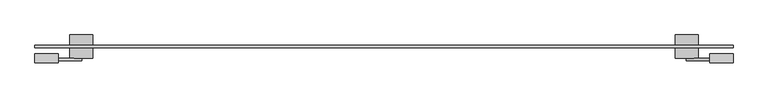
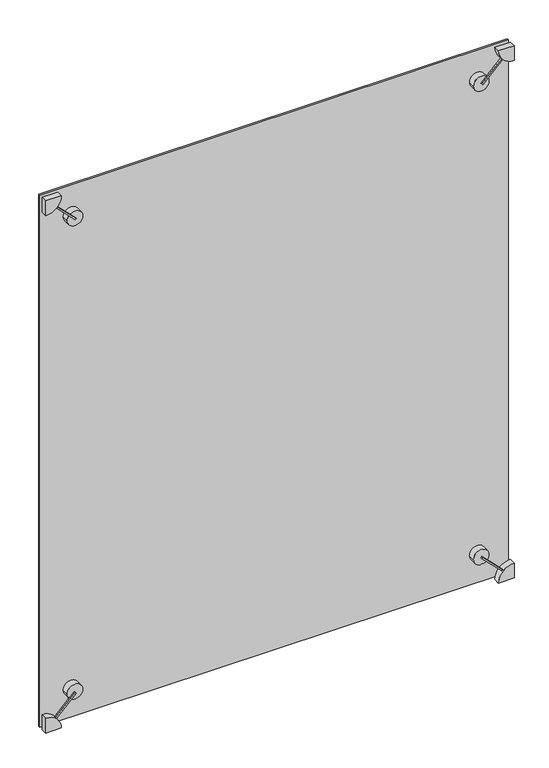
"""IFC4 building model written with IfcOpenShell, lengths in millimetres: plate geometry, 点爪式幕墙嵌板 : 点爪式幕墙嵌板."""

import ifcopenshell
import ifcopenshell.guid

model = None  # the IFC model being written
_history = None  # IfcOwnerHistory: only IFC2X3 demands one
_inside = {}  # id of a spatial element -> (the spatial element, [elements in it])
_under = {}  # id of a project, library or spatial element -> (it, [spatial elements below it])
_declared = {}  # id of a project -> (the project, [libraries it declares])
_typed = {}  # id of a type object -> (the type object, [elements of that type])
_made_of = {}  # id of a material, layer set ... -> (it, [elements and type objects made of it])


def new_model(schema):
    """Start an empty IFC model of exactly this schema.

    Asked for "IFC4X3", IfcOpenShell would pick the latest addendum, in which some entities
    have other attributes; the version numbers below select the first issue.
    IFC2X3 requires an IfcOwnerHistory on every rooted entity: one is made here for all.
    """
    global model, _history
    if schema == "IFC4X3":
        model = ifcopenshell.file(schema_version=(4, 3, 0, 0))
    else:
        model = ifcopenshell.file(schema=schema)
    _inside.clear()
    _under.clear()
    _declared.clear()
    _typed.clear()
    _made_of.clear()
    _history = None
    if model.schema == "IFC2X3":
        org = make("IfcOrganization", Name="unknown")
        user = make(
            "IfcPersonAndOrganization",
            ThePerson=make("IfcPerson", FamilyName="unknown"),
            TheOrganization=org,
        )
        app = make(
            "IfcApplication",
            ApplicationDeveloper=org,
            Version="unknown",
            ApplicationFullName="unknown",
            ApplicationIdentifier="unknown",
        )
        _history = make(
            "IfcOwnerHistory",
            OwningUser=user,
            OwningApplication=app,
            ChangeAction="ADDED",
            CreationDate=0,
        )
    return model


def make(cls, **values):
    """One entity of the class cls with the attributes given. An attribute that is None is left unset."""
    return model.create_entity(
        cls, **{name: value for name, value in values.items() if value is not None}
    )


def rooted(cls, **values):
    """An entity with a GlobalId (a new one), such as an element, a storey or a relation."""
    return make(cls, GlobalId=ifcopenshell.guid.new(), OwnerHistory=_history, **values)


def si_unit(unit_type, name, prefix=None):
    """IfcSIUnit, for example si_unit("LENGTHUNIT", "METRE", prefix="MILLI")."""
    return make("IfcSIUnit", UnitType=unit_type, Prefix=prefix, Name=name)


def assignment(units):
    """IfcUnitAssignment: the units of a project."""
    return None if units is None else make("IfcUnitAssignment", Units=units)


def point(xyz):
    """IfcCartesianPoint."""
    return None if xyz is None else make("IfcCartesianPoint", Coordinates=xyz)


def direction(xyz):
    """IfcDirection."""
    return None if xyz is None else make("IfcDirection", DirectionRatios=xyz)


def frame(location, z_axis=None, x_axis=None):
    """IfcAxis2Placement3D, a coordinate frame: its origin and axes. An axis left out is left unset."""
    return make(
        "IfcAxis2Placement3D",
        Location=point(location),
        Axis=direction(z_axis),
        RefDirection=direction(x_axis),
    )


def frame_2d(location, x_axis=None):
    """IfcAxis2Placement2D, a coordinate frame in the plane: its origin and x axis."""
    return make(
        "IfcAxis2Placement2D", Location=point(location), RefDirection=direction(x_axis)
    )


def origin():
    """The frame at (0, 0, 0) with its axes left unset."""
    return frame((0.0, 0.0, 0.0))


def origin_with_axes():
    """The frame at (0, 0, 0) with the z axis (0, 0, 1) and the x axis (1, 0, 0) written out."""
    return frame((0.0, 0.0, 0.0), z_axis=(0.0, 0.0, 1.0), x_axis=(1.0, 0.0, 0.0))


def place(relative_to, where):
    """IfcLocalPlacement: puts the frame where relative to a parent placement (None: the world)."""
    return make(
        "IfcLocalPlacement", PlacementRelTo=relative_to, RelativePlacement=where
    )


def context(
    kind, dimensions, precision=None, world=None, true_north=None, identifier=None
):
    """IfcGeometricRepresentationContext, for example the 3D "Model" context."""
    return make(
        "IfcGeometricRepresentationContext",
        ContextIdentifier=identifier,
        ContextType=kind,
        CoordinateSpaceDimension=dimensions,
        Precision=precision,
        WorldCoordinateSystem=world,
        TrueNorth=true_north,
    )


def project(units=None, contexts=None):
    """IfcProject with its units and contexts."""
    return rooted(
        "IfcProject",
        Name="project",
        RepresentationContexts=contexts,
        UnitsInContext=assignment(units),
    )


def spatial(cls, under=None, at=None, **own):
    """A site, building, storey or space (cls), placed at a placement, below another one or the project."""
    s = rooted(cls, ObjectPlacement=at, **own)
    if under is not None:
        _under.setdefault(under.id(), (under, []))[1].append(s)
    return s


def polyline(points):
    """IfcPolyline through the points."""
    return make("IfcPolyline", Points=[point(p) for p in points])


def circle_curve(where, radius):
    """IfcCircle in the frame where."""
    return make("IfcCircle", Position=where, Radius=radius)


def trimmed(basis, trim1, trim2, sense, master):
    """IfcTrimmedCurve: the piece of a basis curve between two trims."""
    return make(
        "IfcTrimmedCurve",
        BasisCurve=basis,
        Trim1=trim1,
        Trim2=trim2,
        SenseAgreement=sense,
        MasterRepresentation=master,
    )


def segment(curve, same_sense, transition):
    """IfcCompositeCurveSegment."""
    return make(
        "IfcCompositeCurveSegment",
        Transition=transition,
        SameSense=same_sense,
        ParentCurve=curve,
    )


def composite_curve(segments, self_intersect=None):
    """IfcCompositeCurve: segments joined end to end."""
    return make("IfcCompositeCurve", Segments=segments, SelfIntersect=self_intersect)


def outline(outer, holes=None, kind="AREA"):
    """IfcArbitraryClosedProfileDef: a profile drawn as a closed curve; with holes, ...WithVoids."""
    if holes is None:
        return make("IfcArbitraryClosedProfileDef", ProfileType=kind, OuterCurve=outer)
    return make(
        "IfcArbitraryProfileDefWithVoids",
        ProfileType=kind,
        OuterCurve=outer,
        InnerCurves=holes,
    )


def extrude(swept, where, along, depth):
    """IfcExtrudedAreaSolid: the profile swept, set in the frame where, extruded along a direction by depth."""
    return make(
        "IfcExtrudedAreaSolid",
        SweptArea=swept,
        Position=where,
        ExtrudedDirection=direction(along),
        Depth=depth,
    )


def shape(context_of_items, identifier, shape_type, items):
    """IfcShapeRepresentation: the items that make up one representation, for example the "Body"."""
    return make(
        "IfcShapeRepresentation",
        ContextOfItems=context_of_items,
        RepresentationIdentifier=identifier,
        RepresentationType=shape_type,
        Items=items,
    )


def source(mapping_origin, context_of_items, identifier, shape_type, items):
    """IfcRepresentationMap: a shape defined once, which mapped items show again and again."""
    return make(
        "IfcRepresentationMap",
        MappingOrigin=mapping_origin,
        MappedRepresentation=shape(context_of_items, identifier, shape_type, items),
    )


def transform(
    local_origin,
    x_axis=None,
    y_axis=None,
    z_axis=None,
    scale=None,
    scale2=None,
    scale3=None,
    uniform=True,
):
    """IfcCartesianTransformationOperator3D, or its non-uniform kind. x_axis, y_axis, z_axis: its Axis1, 2, 3."""
    if uniform:
        return make(
            "IfcCartesianTransformationOperator3D",
            Axis1=direction(x_axis),
            Axis2=direction(y_axis),
            LocalOrigin=point(local_origin),
            Scale=scale,
            Axis3=direction(z_axis),
        )
    return make(
        "IfcCartesianTransformationOperator3DnonUniform",
        Axis1=direction(x_axis),
        Axis2=direction(y_axis),
        LocalOrigin=point(local_origin),
        Scale=scale,
        Axis3=direction(z_axis),
        Scale2=scale2,
        Scale3=scale3,
    )


def mapped(mapping_source, mapping_target):
    """IfcMappedItem: shows the shape of a source again, moved by a transform."""
    return make(
        "IfcMappedItem", MappingSource=mapping_source, MappingTarget=mapping_target
    )


def made_of(thing, what):
    """Note that an element or type object is made of a material, layer set ...; save() writes the relation."""
    if what is not None:
        _made_of.setdefault(what.id(), (what, []))[1].append(thing)
    return thing


def element(
    cls,
    number,
    at=None,
    inside=None,
    cuts=None,
    type_object=None,
    material=None,
    context=None,
    identifier="Body",
    shape_type=None,
    held_by="IfcProductDefinitionShape",
    body=None,
    shapes=None,
    **own,
):
    """One element of the class cls, such as IfcWall. Its Tag is "e" and its number.

    at: its placement. inside: the storey or other place that contains it. cuts: it is an
    opening in that element (IfcRelVoidsElement). A single representation is given by context,
    identifier, shape_type and body (its items); several are given by shapes. held_by: the class
    of the entity that holds the representations. save() writes the other relations.
    """
    e = rooted(cls, Tag="e%d" % number, ObjectPlacement=at, **own)
    if body is not None:
        shapes = [shape(context, identifier, shape_type, body)]
    if shapes is not None:
        e.Representation = make(held_by, Representations=shapes)
    if inside is not None:
        _inside.setdefault(inside.id(), (inside, []))[1].append(e)
    if cuts is not None:
        rooted(
            "IfcRelVoidsElement", RelatingBuildingElement=cuts, RelatedOpeningElement=e
        )
    if type_object is not None:
        _typed.setdefault(type_object.id(), (type_object, []))[1].append(e)
    return made_of(e, material)


def aggregate(whole, parts):
    """IfcRelAggregates: a whole, such as a stair, and the parts it consists of."""
    return rooted("IfcRelAggregates", RelatingObject=whole, RelatedObjects=parts)


def save(model, path):
    """Write the relations noted so far, then the file.

    IfcRelAggregates (storeys below a building ...), IfcRelContainedInSpatialStructure (elements
    in a storey), IfcRelDefinesByType, IfcRelAssociatesMaterial and IfcRelDeclares: one each for
    every whole, place, type object, material and project.
    """
    for whole, parts in _under.values():
        aggregate(whole, parts)
    for where, things in _inside.values():
        rooted(
            "IfcRelContainedInSpatialStructure",
            RelatedElements=things,
            RelatingStructure=where,
        )
    for kind, things in _typed.values():
        rooted("IfcRelDefinesByType", RelatedObjects=things, RelatingType=kind)
    for what, things in _made_of.values():
        rooted("IfcRelAssociatesMaterial", RelatedObjects=things, RelatingMaterial=what)
    for by, libraries in _declared.values():
        rooted("IfcRelDeclares", RelatingContext=by, RelatedDefinitions=libraries)
    model.write(path)


def plane_surface(at):
    """IfcPlane: the flat surface through the origin of the frame at, square to its z axis."""
    return make("IfcPlane", Position=at)


def cylinder_surface(at, radius):
    """IfcCylindricalSurface: all points at the distance radius from the z axis of the frame at."""
    return make("IfcCylindricalSurface", Position=at, Radius=radius)


def advanced_brep(points, edges, surfaces, faces):
    """IfcAdvancedBrep: a solid bounded by faces that lie on surfaces and meet in shared edges.

    An edge is (start, end): straight between two places in points (the first is 0);
    or (start, end, curve); or (start, end, curve, False) where it runs against its curve.
    A face is (place in surfaces, loops), or (place, loops, False) where it looks against
    its surface's normal. A loop lists edges by number (the first is 1), with a minus sign
    where the edge is run from its end to its start. The first loop is the outer one.
    """
    corners = [point(p) for p in points]
    vertices = [make("IfcVertexPoint", VertexGeometry=c) for c in corners]
    made = []
    for start, end, *more in edges:
        made.append(
            make(
                "IfcEdgeCurve",
                EdgeStart=vertices[start],
                EdgeEnd=vertices[end],
                EdgeGeometry=more[0] if more else make("IfcPolyline", Points=[corners[start], corners[end]]),
                SameSense=more[1] if len(more) > 1 else True,
            )
        )
    hull = []
    for where, loops, *sense in faces:
        bounds = []
        for j, loop in enumerate(loops):
            ring = [make("IfcOrientedEdge", EdgeElement=made[abs(k) - 1], Orientation=k > 0) for k in loop]
            bounds.append(
                make(
                    "IfcFaceOuterBound" if j == 0 else "IfcFaceBound",
                    Bound=make("IfcEdgeLoop", EdgeList=ring),
                    Orientation=True,
                )
            )
        hull.append(make("IfcAdvancedFace", Bounds=bounds, FaceSurface=surfaces[where], SameSense=sense[0] if sense else True))
    return make("IfcAdvancedBrep", Outer=make("IfcClosedShell", CfsFaces=hull))


def plate_c6d4b723(model_context):
    return source(origin(), model_context, "Body", "SolidModel", [
        extrude(outline(polyline([(0.0, -10.0), (0.0, 0.0), (10.0, 0.0), (10.0, -10.0), (0.0, -10.0)])), frame((-1433.7667022, -60.0, 73.3043656), z_axis=(0.7071067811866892, 0.0, 0.7071067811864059), x_axis=(0.0, 1.0, 0.0)), (0.0, 0.0, 1.0), 181.331972),
        extrude(outline(composite_curve([segment(trimmed(circle_curve(frame_2d((0.0, -1500.0)), 100.0), [point((0.0, -1400.0))], [point((100.0, -1500.0))], False, "CARTESIAN"), True, "CONTINUOUS"), segment(polyline([(100.0, -1500.0), (0.0, -1500.0), (0.0, -1400.0)]), True, "CONTINUOUS")], self_intersect=False)), frame((0.0, -70.0, 0.0), z_axis=(0.0, 1.0, 0.0), x_axis=(0.0, 0.0, 1.0)), (0.0, 0.0, 1.0), 40.0),
        extrude(outline(composite_curve([segment(trimmed(circle_curve(frame_2d((199.0051024, -1300.9948976)), 50.0), [point((199.0051024, -1250.9948976))], [point((199.0051024, -1350.9948976))], False, "CARTESIAN"), True, "CONTINUOUS"), segment(trimmed(circle_curve(frame_2d((199.0051024, -1300.9948976)), 50.0), [point((199.0051024, -1350.9948976))], [point((199.0051024, -1250.9948976))], False, "CARTESIAN"), True, "CONTINUOUS")], self_intersect=False)), frame((0.0, -50.0, 0.0), z_axis=(0.0, 1.0, 0.0), x_axis=(0.0, 0.0, 1.0)), (0.0, 0.0, 1.0), 100.0),
        extrude(outline(polyline([(0.0, -181.3319719), (0.0, 0.0), (10.0, 0.0), (10.0, -181.3319719), (0.0, -181.3319719)])), frame((1298.4745674, -60.0, 194.4543648), z_axis=(0.7071067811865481, 0.0, 0.707106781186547), x_axis=(0.0, 1.0, 0.0)), (0.0, 0.0, 1.0), 10.0),
        extrude(outline(composite_curve([segment(polyline([(0.0, 1400.0), (0.0, 1500.0), (100.0, 1500.0)]), True, "CONTINUOUS"), segment(trimmed(circle_curve(frame_2d((0.0, 1500.0)), 100.0), [point((100.0, 1500.0))], [point((0.0, 1400.0))], False, "CARTESIAN"), True, "CONTINUOUS")], self_intersect=False)), frame((0.0, -70.0, 0.0), z_axis=(0.0, 1.0, 0.0), x_axis=(0.0, 0.0, 1.0)), (0.0, 0.0, 1.0), 40.0),
        extrude(outline(composite_curve([segment(trimmed(circle_curve(frame_2d((199.0051024, 1300.9948976)), 50.0), [point((199.0051024, 1250.9948976))], [point((199.0051024, 1350.9948976))], False, "CARTESIAN"), True, "CONTINUOUS"), segment(trimmed(circle_curve(frame_2d((199.0051024, 1300.9948976)), 50.0), [point((199.0051024, 1350.9948976))], [point((199.0051024, 1250.9948976))], False, "CARTESIAN"), True, "CONTINUOUS")], self_intersect=False)), frame((0.0, -50.0, 0.0), z_axis=(0.0, 1.0, 0.0), x_axis=(0.0, 0.0, 1.0)), (0.0, 0.0, 1.0), 100.0),
        extrude(outline(polyline([(0.0, -181.3319719), (0.0, 0.0), (10.0, 0.0), (10.0, -181.3319719), (0.0, -181.3319719)])), frame((-1433.7667022, -60.0, 3526.6956344), z_axis=(0.7071067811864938, 0.0, 0.7071067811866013), x_axis=(0.0, 1.0, 0.0)), (0.0, 0.0, 1.0), 10.0),
        extrude(outline(composite_curve([segment(polyline([(3600.0, -1400.0), (3600.0, -1500.0), (3500.0, -1500.0)]), True, "CONTINUOUS"), segment(trimmed(circle_curve(frame_2d((3600.0, -1500.0)), 100.0), [point((3500.0, -1500.0))], [point((3600.0, -1400.0))], False, "CARTESIAN"), True, "CONTINUOUS")], self_intersect=False)), frame((0.0, -70.0, 0.0), z_axis=(0.0, 1.0, 0.0), x_axis=(0.0, 0.0, 1.0)), (0.0, 0.0, 1.0), 40.0),
        extrude(outline(composite_curve([segment(trimmed(circle_curve(frame_2d((3400.9948976, -1300.9948976)), 50.0), [point((3400.9948976, -1250.9948976))], [point((3400.9948976, -1350.9948976))], False, "CARTESIAN"), True, "CONTINUOUS"), segment(trimmed(circle_curve(frame_2d((3400.9948976, -1300.9948976)), 50.0), [point((3400.9948976, -1350.9948976))], [point((3400.9948976, -1250.9948976))], False, "CARTESIAN"), True, "CONTINUOUS")], self_intersect=False)), frame((0.0, -50.0, 0.0), z_axis=(0.0, 1.0, 0.0), x_axis=(0.0, 0.0, 1.0)), (0.0, 0.0, 1.0), 100.0),
        advanced_brep(
        [(1250.9948976, -50.0, 3400.9948976), (1350.9948976, -50.0, 3400.9948976), (1339.7085497, -50.0, 3432.6374819), (1305.5456352, -50.0, 3398.4745674), (1298.4745674, -50.0, 3405.5456352), (1332.6374819, -50.0, 3439.7085497), (1250.9948976, 50.0, 3400.9948976), (1350.9948976, 50.0, 3400.9948976), (1298.4745674, -60.0, 3405.5456352), (1305.5456352, -60.0, 3398.4745674), (1432.9132994, -60.0, 3525.8422316), (1425.8422316, -60.0, 3532.9132994), (1425.8422316, -50.0, 3532.9132994), (1432.9132994, -50.0, 3525.8422316), (1400.0, -70.0, 3600.0), (1500.0, -70.0, 3500.0), (1500.0, -70.0, 3600.0), (1400.0, -30.0, 3600.0), (1500.0, -30.0, 3600.0), (1500.0, -30.0, 3500.0)],
        [
            (0, 1, circle_curve(frame((1300.9948976, -50.0, 3400.9948976), z_axis=(0.0, -1.0, 0.0), x_axis=(1.0, 0.0, 0.0)), 50.0)),
            (1, 2, circle_curve(frame((1300.9948976, -50.0, 3400.9948976), z_axis=(0.0, -1.0, 0.0), x_axis=(1.0, 0.0, 0.0)), 50.0)),
            (2, 3),
            (3, 4),
            (4, 5),
            (5, 0, circle_curve(frame((1300.9948976, -50.0, 3400.9948976), z_axis=(0.0, -1.0, 0.0), x_axis=(1.0, 0.0, 0.0)), 50.0)),
            (6, 7, circle_curve(frame((1300.9948976, 50.0, 3400.9948976), z_axis=(0.0, 1.0, 0.0), x_axis=(1.0, 0.0, 0.0)), 50.0)),
            (7, 6, circle_curve(frame((1300.9948976, 50.0, 3400.9948976), z_axis=(0.0, 1.0, 0.0), x_axis=(1.0, 0.0, 0.0)), 50.0)),
            (0, 6),
            (7, 1),
            (5, 2, circle_curve(frame((1300.9948976, -50.0, 3400.9948976), z_axis=(0.0, 1.0, 0.0), x_axis=(1.0, 0.0, 0.0)), 50.0)),
            (8, 9),
            (9, 10),
            (10, 11, circle_curve(frame((1500.0, -60.0, 3600.0), z_axis=(0.0, 1.0, 0.0), x_axis=(1.0, 0.0, 0.0)), 100.0)),
            (11, 8),
            (5, 12),
            (12, 13, circle_curve(frame((1500.0, -50.0, 3600.0), z_axis=(0.0, -1.0, 0.0), x_axis=(1.0, 0.0, 0.0)), 100.0)),
            (13, 2),
            (4, 8),
            (11, 12),
            (3, 9),
            (13, 10),
            (14, 15, circle_curve(frame((1500.0, -70.0, 3600.0), z_axis=(0.0, -1.0, 0.0), x_axis=(1.0, 0.0, 0.0)), 100.0)),
            (15, 16),
            (16, 14),
            (17, 18),
            (18, 19),
            (19, 17, circle_curve(frame((1500.0, -30.0, 3600.0), z_axis=(0.0, 1.0, 0.0), x_axis=(1.0, 0.0, 0.0)), 100.0)),
            (14, 17),
            (19, 15),
            (18, 16),
        ],
        [
            plane_surface(frame((1350.9948976, -50.0, 3400.9948976), z_axis=(0.0, -1.0, 0.0), x_axis=(0.0, 0.0, 1.0))),
            plane_surface(frame((1350.9948976, 50.0, 3400.9948976), z_axis=(0.0, 1.0, 0.0), x_axis=(0.0, 0.0, -1.0))),
            cylinder_surface(frame((1300.9948976, 50.0, 3400.9948976), z_axis=(0.0, -1.0, 0.0), x_axis=(1.0, 0.0, 0.0)), 50.0),
            plane_surface(frame((1298.4745674, -60.0, 3405.5456352), z_axis=(0.0, -1.0000000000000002, 0.0), x_axis=(-0.7071067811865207, 0.0, -0.7071067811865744))),
            plane_surface(frame((1298.4745674, -50.0, 3405.5456352), z_axis=(0.0, 1.0000000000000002, 0.0), x_axis=(0.7071067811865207, 0.0, 0.7071067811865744))),
            plane_surface(frame((1426.6956344, -60.0, 3533.7667022), z_axis=(-0.7071067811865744, 0.0, 0.7071067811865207), x_axis=(0.0, 1.0, 0.0))),
            plane_surface(frame((1298.4745674, -60.0, 3405.5456352), z_axis=(-0.7071067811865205, 0.0, -0.7071067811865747), x_axis=(0.0, 1.0, 0.0))),
            plane_surface(frame((1305.5456352, -60.0, 3398.4745674), z_axis=(0.7071067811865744, 0.0, -0.7071067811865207), x_axis=(0.0, 1.0, 0.0))),
            plane_surface(frame((1600.0, -70.0, 3600.0), z_axis=(0.0, -1.0, 0.0), x_axis=(0.0, 0.0, 1.0))),
            plane_surface(frame((1600.0, -30.0, 3600.0), z_axis=(0.0, 1.0, 0.0), x_axis=(0.0, 0.0, -1.0))),
            cylinder_surface(frame((1500.0, -30.0, 3600.0), z_axis=(0.0, -1.0, 0.0), x_axis=(1.0, 0.0, 0.0)), 100.0),
            plane_surface(frame((1500.0, -70.0, 3500.0), z_axis=(1.0, 0.0, 0.0), x_axis=(0.0, 1.0, 0.0))),
            plane_surface(frame((1500.0, -70.0, 3600.0), z_axis=(0.0, 0.0, 1.0), x_axis=(0.0, 1.0, 0.0))),
        ],
        [
            (0, [[1, 2, 3, 4, 5, 6]]),
            (1, [[7, 8]]),
            (2, [[-1, 9, -8, 10]]),
            (2, [[-7, -9, -6, 11, -2, -10]]),
            (3, [[12, 13, 14, 15]]),
            (4, [[-11, 16, 17, 18]]),
            (5, [[19, -15, 20, -16, -5]]),
            (6, [[-12, -19, -4, 21]]),
            (7, [[-21, -3, -18, 22, -13]]),
            (8, [[23, 24, 25]]),
            (9, [[26, 27, 28]]),
            (10, [[-23, 29, -28, 30], [-14, -22, -17, -20]]),
            (11, [[-24, -30, -27, 31]]),
            (12, [[-25, -31, -26, -29]]),
        ],
    ),
        extrude(outline(polyline([(1500.0, 5.0), (1500.0, -5.0), (-1500.0, -5.0), (-1500.0, 5.0), (1500.0, 5.0)])), origin_with_axes(), (0.0, 0.0, 1.0), 3600.0),
    ])


if __name__ == "__main__":
    model = new_model("IFC4")
    model_context = context("Model", 3, world=origin())
    ifc_project = project(units=[si_unit("LENGTHUNIT", "METRE", prefix="MILLI")], contexts=[model_context])
    site = spatial("IfcSite", under=ifc_project)
    building = spatial("IfcBuilding", under=site)
    placement = place(None, origin())
    plate_shape = plate_c6d4b723(model_context)
    element("IfcPlate", 1, ObjectType="点爪式幕墙嵌板 : 点爪式幕墙嵌板", at=placement, inside=building, context=model_context, shape_type="MappedRepresentation", body=[
        mapped(plate_shape, transform((0.0, 0.0, 0.0), x_axis=(1.0, 0.0, 0.0), y_axis=(0.0, 1.0, 0.0), z_axis=(0.0, 0.0, 1.0))),
    ])
    save(model, "model.ifc")
